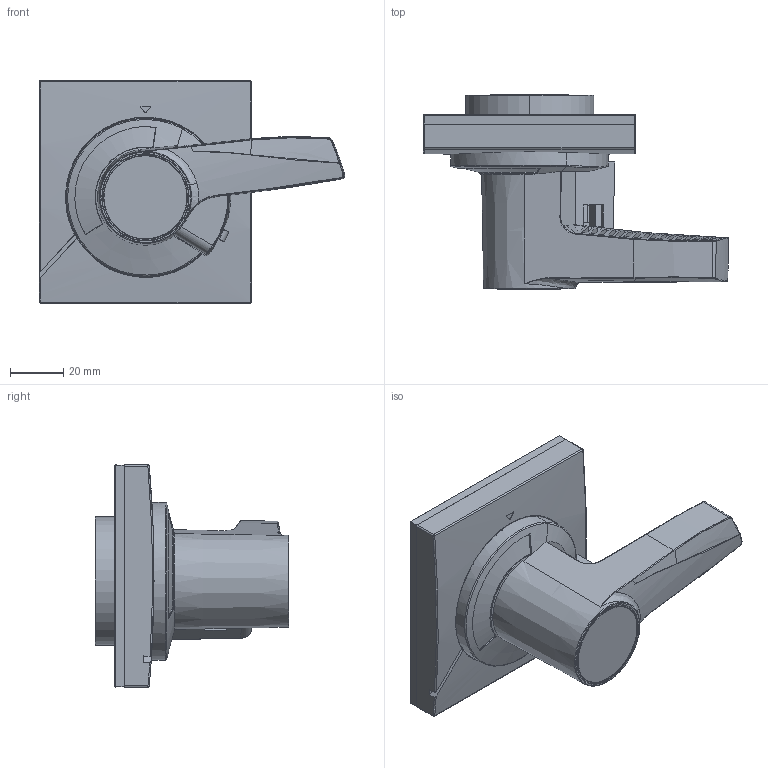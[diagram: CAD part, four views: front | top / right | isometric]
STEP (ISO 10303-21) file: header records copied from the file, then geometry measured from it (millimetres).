
FILE_DESCRIPTION((''),'2;1');
FILE_NAME('5TZD_253_6087_ASM','2025-05-27T13:24:02',('gaoleixiao'),(''),'CREO PARAMETRIC BY PTC INC, 2020354','CREO PARAMETRIC BY PTC INC, 2020354','');
FILE_SCHEMA(('CONFIG_CONTROL_DESIGN'));
Length unit declared in the file: inch
Products named in the file (14): 8TZD_311_1020_2; 8TZD_253_1165_3; __1_1; 8TZD_325_1059_2; 1-8271M0304001_1; 1-8885M0101007_1; 8TZD_270_6051_1; 1-8270M0101006_1; 8TZD_024_1192_1; 8TZD_140_6008_1; GB_T845-ST2_9X8-F_2; ASSEMBLY_1_ASM_9_ASM; GB_T845-ST4_2X30-F; 5TZD_253_6087_ASM
Assembly tree (16 placements, depth 3):
  5TZD_253_6087_ASM
    ASSEMBLY_1_ASM_9_ASM
      8TZD_311_1020_2
      8TZD_253_1165_3
      __1_1
      8TZD_325_1059_2
      1-8271M0304001_1
      1-8885M0101007_1
      8TZD_270_6051_1
      1-8270M0101006_1
      8TZD_024_1192_1
      8TZD_140_6008_1
      GB_T845-ST2_9X8-F_2  x4
    GB_T845-ST4_2X30-F
Bounding box: 115.13 x 73.15 x 84 mm (x, y, z)
Volume: 84818.2 mm3; surface area: 106065.6 mm2
Topology: 14 solids, 15 shells, 1458 faces, 4045 edges, 2688 vertices
Faces by surface type: plane 874, cylinder 425, cone 57, bspline 46, torus 37, sphere 18, extrusion 1
Entity records: 51260 total; most frequent: CARTESIAN_POINT 14697, ORIENTED_EDGE 7775, DIRECTION 7518, EDGE_CURVE 3889, AXIS2_PLACEMENT_3D 2670, VERTEX_POINT 2604, VECTOR 2178, LINE 2177
